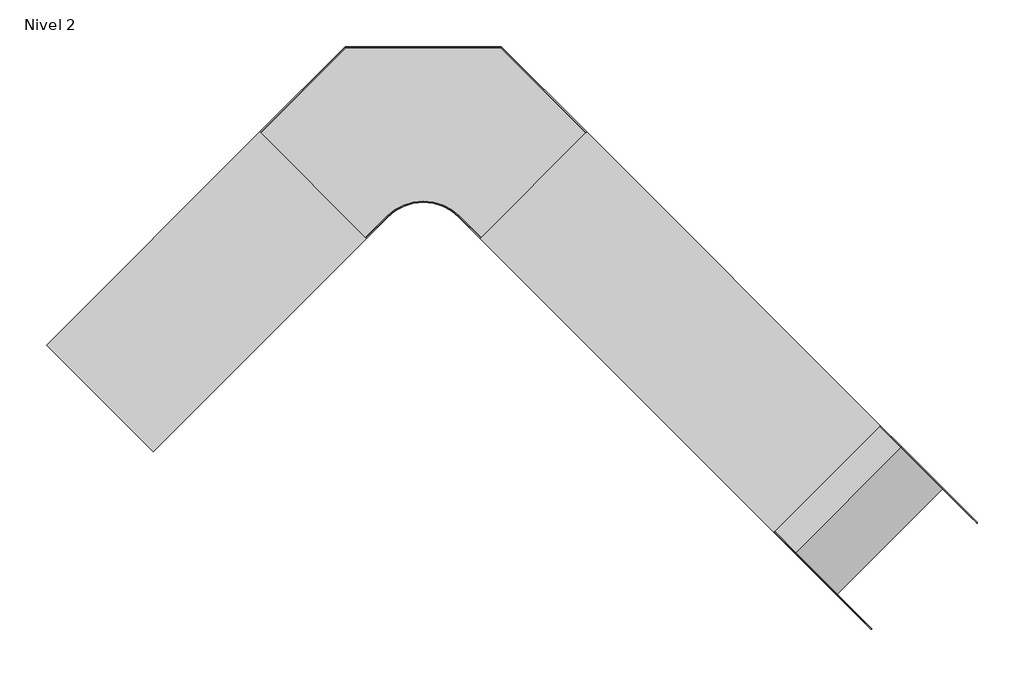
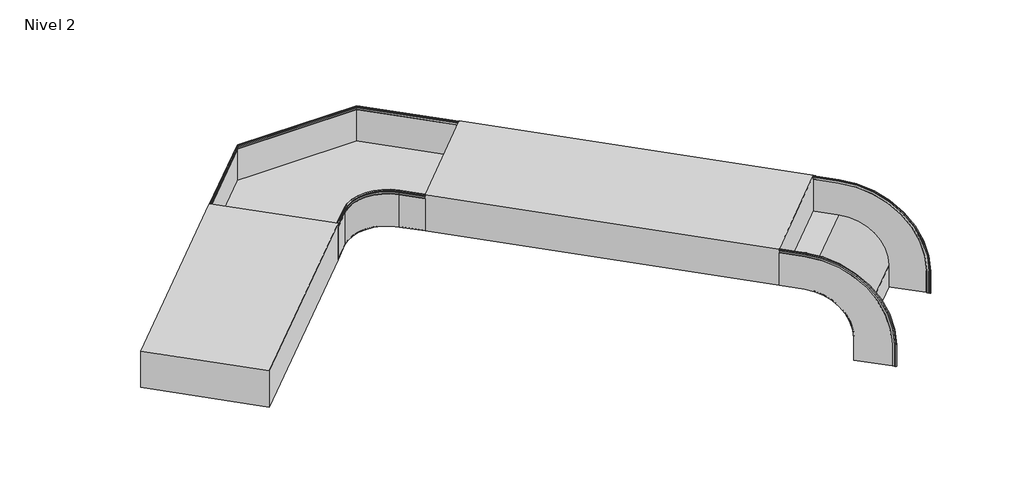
# One storey: 2 cable carrier fittings, 2 cable carrier segments.
"""IFC4 building model written with IfcOpenShell, lengths in millimetres."""

from ifc_helpers import new_model, si_unit, frame, origin, place, context, project, spatial, polyline, outline, extrude, transform, mapped, element, save
from components import cable_carrier_fitting_ebb957c4, cable_carrier_fitting_583218a9

model = new_model("IFC4")

# Units and contexts
model_context = context("Model", 3, world=origin())
ifc_project = project(units=[si_unit("LENGTHUNIT", "METRE", prefix="MILLI")], contexts=[model_context])

# Site, building, storey
site = spatial("IfcSite", under=ifc_project)
building = spatial("IfcBuilding", under=site)
storey = spatial("IfcBuildingStorey", under=building, Name="Nivel 2", Elevation=4000.0)

# Cable carrier fittings
placement = place(None, origin())
cable_carrier_fitting_shape = cable_carrier_fitting_ebb957c4(model_context)
element("IfcCableCarrierFitting", 1, ObjectType="CPERC_Horizontal Bend_Basortray : Basortray CPERC-GS", at=placement, inside=storey, context=model_context, shape_type="MappedRepresentation", body=[
    mapped(cable_carrier_fitting_shape, transform((-3480.158027, 1609.261555, 2259.2411788), x_axis=(-0.7071067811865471, 0.7071067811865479, 0.0), y_axis=(-0.7071067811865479, -0.7071067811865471, 0.0), z_axis=(0.0, 0.0, 1.0))),
])
cable_carrier_fitting_2_shape = cable_carrier_fitting_583218a9(model_context)
element("IfcCableCarrierFitting", 2, ObjectType="CXERC_Vertical_Outside_Bend-Basortray : Basortray CXERC-GS", at=placement, inside=storey, context=model_context, shape_type="MappedRepresentation", body=[
    mapped(cable_carrier_fitting_2_shape, transform((-2518.4928046, 647.5963326, 2259.2411788), x_axis=(0.7071067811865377, -0.7071067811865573, 0.0), y_axis=(0.0, 0.0, -1.0), z_axis=(0.7071067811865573, 0.7071067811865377, 0.0))),
])

# Cable carrier segments
element("IfcCableCarrierSegment", 3, ObjectType="Basortray ERE-GS", at=placement, inside=storey, context=model_context, shape_type="SweptSolid", body=[
    extrude(outline(polyline([(-4017.3510279, 859.9365198), (-4229.4830622, 1072.0685541), (-3805.4271463, 1496.12447), (-3593.295112, 1283.9924357), (-4017.3510279, 859.9365198)])), frame((0.0, 0.0, 2209.2411788), z_axis=(0.0, 0.0, 1.0), x_axis=(1.0, 0.0, 0.0)), (0.0, 0.0, 1.0), 100.0),
])
element("IfcCableCarrierSegment", 4, ObjectType="Basortray ERE-GS", at=placement, inside=storey, context=model_context, shape_type="SweptSolid", body=[
    extrude(outline(polyline([(-3367.020942, 1283.9924357), (-3154.8889076, 1496.12447), (-2570.8187064, 912.0542688), (-2782.9507407, 699.9222344), (-3367.020942, 1283.9924357)])), frame((0.0, 0.0, 2209.2411788), z_axis=(0.0, 0.0, 1.0), x_axis=(1.0, 0.0, 0.0)), (0.0, 0.0, 1.0), 100.0),
])

save(model, "model.ifc")
